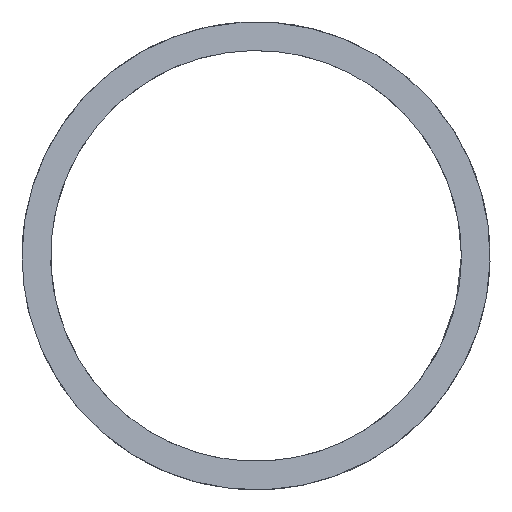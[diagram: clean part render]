
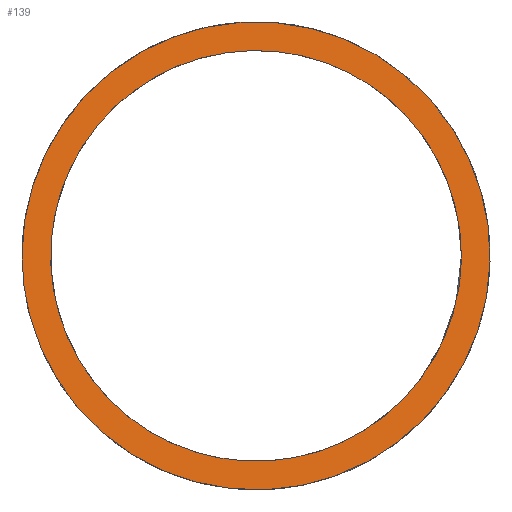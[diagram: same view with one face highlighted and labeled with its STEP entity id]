
A CAD part, left-side view. The second image highlights one B-rep face of the part: STEP entity #139.
In plain terms, the highlighted planar face has unit normal (-0.924, -0.383, 0).
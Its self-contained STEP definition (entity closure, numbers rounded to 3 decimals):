
#62=PLANE('',#131);
#66=ORIENTED_EDGE('',*,*,#80,.F.);
#67=ORIENTED_EDGE('',*,*,#82,.F.);
#72=ELLIPSE('',#129,22.947,21.2);
#74=ELLIPSE('',#132,20.132,18.6);
#76=VERTEX_POINT('',#117);
#78=VERTEX_POINT('',#122);
#80=EDGE_CURVE('',#76,#76,#72,.T.);
#82=EDGE_CURVE('',#78,#78,#74,.T.);
#86=EDGE_LOOP('',(#66));
#87=EDGE_LOOP('',(#67));
#94=FACE_BOUND('',#86,.T.);
#95=FACE_BOUND('',#87,.T.);
#102=DIRECTION('',(0.924,0.383,0.));
#103=DIRECTION('',(-0.383,0.924,0.));
#106=DIRECTION('',(-0.924,-0.383,0.));
#107=DIRECTION('',(-0.383,0.924,0.));
#108=DIRECTION('',(-0.924,-0.383,0.));
#109=DIRECTION('',(0.383,-0.924,0.));
#117=CARTESIAN_POINT('',(-240.,21.2,0.));
#118=CARTESIAN_POINT('',(-231.219,0.,0.));
#121=CARTESIAN_POINT('',(-230.55,-1.614,0.));
#122=CARTESIAN_POINT('',(-223.514,-18.6,0.));
#123=CARTESIAN_POINT('',(-231.219,0.,0.));
#129=AXIS2_PLACEMENT_3D('',#118,#102,#103);
#131=AXIS2_PLACEMENT_3D('',#121,#106,#107);
#132=AXIS2_PLACEMENT_3D('',#123,#108,#109);
#139=ADVANCED_FACE('',(#94,#95),#62,.T.);
